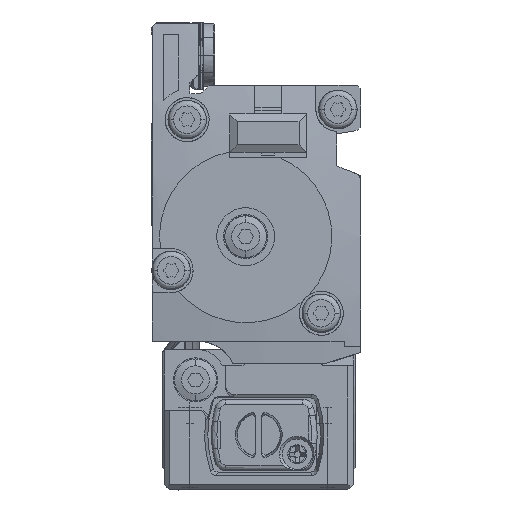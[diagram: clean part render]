
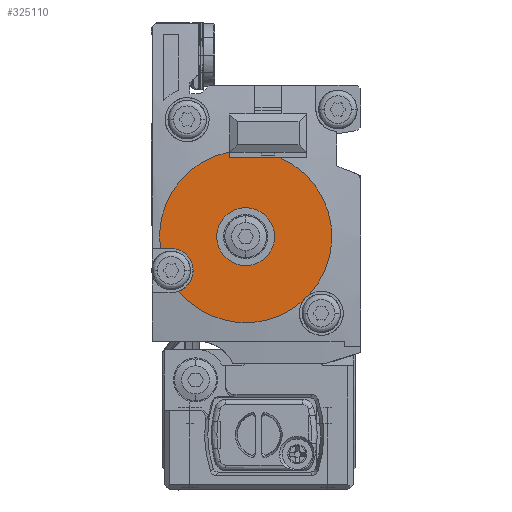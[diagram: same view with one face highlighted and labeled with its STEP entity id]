
A CAD part, left-side view. The second image highlights one B-rep face of the part: STEP entity #325110.
In plain terms, the highlighted planar face has unit normal (-1, 0, 0) as drawn and (0, 0, -1) by its records, which use the part's own axes.
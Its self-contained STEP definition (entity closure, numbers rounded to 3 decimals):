
#235730=CARTESIAN_POINT('',(-103.732,235.923,
-10.5));
#235740=VERTEX_POINT('',#235730);
#235770=CARTESIAN_POINT('',(-105.972,239.237,
-10.5));
#235780=DIRECTION('',(0.,0.,-1.));
#235790=DIRECTION('',(-1.,0.,0.));
#235800=AXIS2_PLACEMENT_3D('',#235770,#235780,#235790);
#235810=CIRCLE('',#235800,4.);
#235820=CARTESIAN_POINT('',(-102.627,237.044,
-10.5));
#235830=VERTEX_POINT('',#235820);
#235840=EDGE_CURVE('',#235830,#235740,#235810,.T.);
#253390=CARTESIAN_POINT('',(-97.3,225.495,
-10.5));
#253400=VERTEX_POINT('',#253390);
#253430=CARTESIAN_POINT('',(-92.05,225.495,
-10.5));
#253440=DIRECTION('',(0.,0.,-1.));
#253450=DIRECTION('',(-1.,0.,0.));
#253460=AXIS2_PLACEMENT_3D('',#253430,#253440,#253450);
#253470=CIRCLE('',#253460,5.25);
#253480=CARTESIAN_POINT('',(-86.8,225.495,
-10.5));
#253490=VERTEX_POINT('',#253480);
#253500=EDGE_CURVE('',#253490,#253400,#253470,.T.);
#320440=CARTESIAN_POINT('',(-94.188,211.959,
-10.5));
#320450=VERTEX_POINT('',#320440);
#320480=CARTESIAN_POINT('',(-98.188,211.959,
-10.5));
#320490=DIRECTION('',(0.,0.,-1.));
#320500=DIRECTION('',(-1.,0.,0.));
#320510=AXIS2_PLACEMENT_3D('',#320480,#320490,#320500);
#320520=CIRCLE('',#320510,4.);
#320530=CARTESIAN_POINT('',(-101.931,213.372,
-10.5));
#320540=VERTEX_POINT('',#320530);
#320550=EDGE_CURVE('',#320540,#320450,#320520,.T.);
#324600=CARTESIAN_POINT('',(-84.704,225.495,
-10.5));
#324610=DIRECTION('',(0.,0.,-1.));
#324620=DIRECTION('',(1.,0.,0.));
#324630=AXIS2_PLACEMENT_3D('',#324600,#324610,#324620);
#324640=PLANE('',#324630);
#324650=EDGE_CURVE('',#253400,#253490,#253470,.T.);
#324660=ORIENTED_EDGE('',*,*,#324650,.F.);
#324670=ORIENTED_EDGE('',*,*,#253500,.F.);
#324680=EDGE_LOOP('',(#324670,#324660));
#324690=FACE_BOUND('',#324680,.T.);
#324700=ORIENTED_EDGE('',*,*,#235840,.F.);
#324710=CARTESIAN_POINT('',(-92.051,225.509,
-10.5));
#324720=DIRECTION('',(0.,0.,-1.));
#324730=DIRECTION('',(1.,0.,0.));
#324740=AXIS2_PLACEMENT_3D('',#324710,#324720,#324730);
#324750=CIRCLE('',#324740,15.65);
#324760=EDGE_CURVE('',#320540,#235740,#324750,.T.);
#324770=ORIENTED_EDGE('',*,*,#324760,.T.);
#324780=ORIENTED_EDGE('',*,*,#320550,.F.);
#324790=CARTESIAN_POINT('',(-94.188,225.509,
-10.5));
#324800=DIRECTION('',(0.,1.,0.));
#324810=VECTOR('',#324800,1.);
#324820=LINE('',#324790,#324810);
#324830=CARTESIAN_POINT('',(-94.188,210.006,
-10.5));
#324840=VERTEX_POINT('',#324830);
#324850=EDGE_CURVE('',#324840,#320450,#324820,.T.);
#324860=ORIENTED_EDGE('',*,*,#324850,.T.);
#324870=CARTESIAN_POINT('',(-76.678,222.58,
-10.5));
#324880=VERTEX_POINT('',#324870);
#324890=EDGE_CURVE('',#324880,#324840,#324750,.T.);
#324900=ORIENTED_EDGE('',*,*,#324890,.T.);
#324910=CARTESIAN_POINT('',(-137.342,222.58,
-10.5));
#324920=DIRECTION('',(-1.,0.,0.));
#324930=VECTOR('',#324920,1.);
#324940=LINE('',#324910,#324930);
#324950=CARTESIAN_POINT('',(-77.669,222.58,
-10.5));
#324960=VERTEX_POINT('',#324950);
#324970=EDGE_CURVE('',#324880,#324960,#324940,.T.);
#324980=ORIENTED_EDGE('',*,*,#324970,.F.);
#324990=CARTESIAN_POINT('',(-77.669,225.509,
-10.5));
#325000=DIRECTION('',(0.,-1.,0.));
#325010=VECTOR('',#325000,1.);
#325020=LINE('',#324990,#325010);
#325030=CARTESIAN_POINT('',(-77.669,231.679,
-10.5));
#325040=VERTEX_POINT('',#325030);
#325050=EDGE_CURVE('',#325040,#324960,#325020,.T.);
#325060=ORIENTED_EDGE('',*,*,#325050,.T.);
#325070=EDGE_CURVE('',#235830,#325040,#324750,.T.);
#325080=ORIENTED_EDGE('',*,*,#325070,.T.);
#325090=EDGE_LOOP('',(#325080,#325060,#324980,#324900,#324860,#324780,
#324770,#324700));
#325100=FACE_OUTER_BOUND('',#325090,.T.);
#325110=ADVANCED_FACE('',(#324690,#325100),#324640,.T.);
